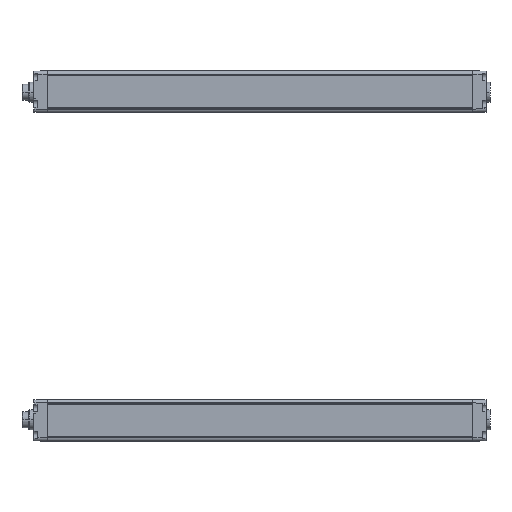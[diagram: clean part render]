
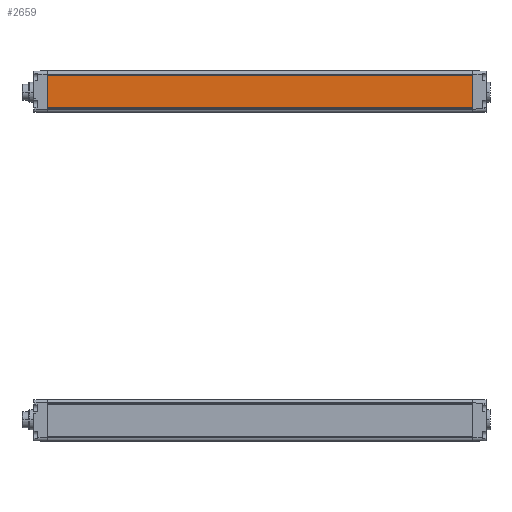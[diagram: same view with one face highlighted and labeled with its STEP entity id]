
A CAD part, front view. The second image highlights one B-rep face of the part: STEP entity #2659.
In plain terms, the highlighted planar face has unit normal (0, -1, 0).
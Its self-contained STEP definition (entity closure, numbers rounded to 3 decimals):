
#154=DIRECTION('',(0.,0.,-1.));
#155=VECTOR('',#154,24.);
#156=CARTESIAN_POINT('',(0.,-15.15,12.));
#157=LINE('',#156,#155);
#412=DIRECTION('',(0.,0.,-1.));
#413=VECTOR('',#412,24.);
#414=CARTESIAN_POINT('',(320.,-15.15,12.));
#415=LINE('',#414,#413);
#880=DIRECTION('',(1.,0.,0.));
#881=VECTOR('',#880,320.);
#882=CARTESIAN_POINT('',(0.,-15.15,12.));
#883=LINE('',#882,#881);
#884=DIRECTION('',(1.,0.,0.));
#885=VECTOR('',#884,320.);
#886=CARTESIAN_POINT('',(0.,-15.15,-12.));
#887=LINE('',#886,#885);
#1298=CARTESIAN_POINT('',(0.,-15.15,12.));
#1299=CARTESIAN_POINT('',(320.,-15.15,12.));
#1300=VERTEX_POINT('',#1298);
#1301=VERTEX_POINT('',#1299);
#1310=CARTESIAN_POINT('',(0.,-15.15,-12.));
#1311=CARTESIAN_POINT('',(320.,-15.15,-12.));
#1312=VERTEX_POINT('',#1310);
#1313=VERTEX_POINT('',#1311);
#2646=CARTESIAN_POINT('',(0.,-15.15,15.65));
#2647=DIRECTION('',(0.,-1.,0.));
#2648=DIRECTION('',(0.,0.,-1.));
#2649=AXIS2_PLACEMENT_3D('',#2646,#2647,#2648);
#2650=PLANE('',#2649);
#2652=ORIENTED_EDGE('',*,*,#2651,.T.);
#2653=ORIENTED_EDGE('',*,*,#1938,.T.);
#2655=ORIENTED_EDGE('',*,*,#2654,.F.);
#2656=ORIENTED_EDGE('',*,*,#1671,.F.);
#2657=EDGE_LOOP('',(#2652,#2653,#2655,#2656));
#2658=FACE_OUTER_BOUND('',#2657,.F.);
#2659=ADVANCED_FACE('',(#2658),#2650,.T.);
#1671=EDGE_CURVE('',#1300,#1312,#157,.T.);
#1938=EDGE_CURVE('',#1301,#1313,#415,.T.);
#2651=EDGE_CURVE('',#1300,#1301,#883,.T.);
#2654=EDGE_CURVE('',#1312,#1313,#887,.T.);
